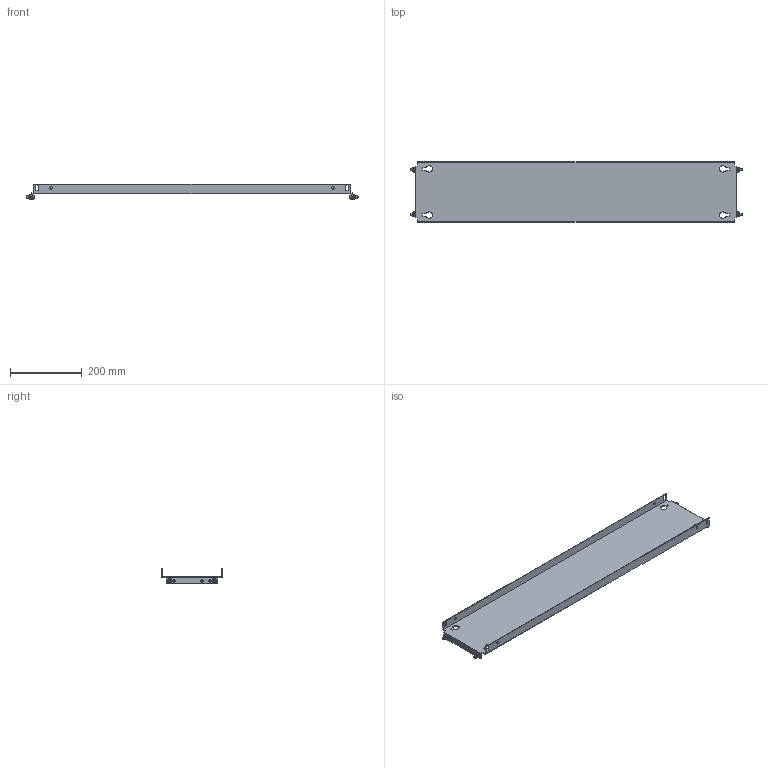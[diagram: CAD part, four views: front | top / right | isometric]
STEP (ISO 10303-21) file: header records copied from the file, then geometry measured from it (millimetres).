
FILE_DESCRIPTION(('Open CASCADE Model'),'2;1');
FILE_NAME('Open CASCADE Shape Model','2025-02-20T13:24:42',('Author'),( 'Open CASCADE'),'Open CASCADE STEP processor 7.8','Open CASCADE 7.8' ,'Unknown');
FILE_SCHEMA(('AUTOMOTIVE_DESIGN { 1 0 10303 214 1 1 1 1 }'));
Length unit declared in the file: millimetre
Products named in the file (4): Compound1; Solid1; Solid2; Solid3
Assembly tree (9 placements, depth 2):
  Compound1
    Solid1
    Solid2  x4
    Solid3  x4
Bounding box: 928 x 169 x 43 mm (x, y, z)
Volume: 400149.8 mm3; surface area: 405339.8 mm2
Topology: 9 solids, 9 shells, 308 faces, 753 edges, 467 vertices
Faces by surface type: plane 150, cone 68, bspline 48, cylinder 30, torus 12
Full cylindrical faces by diameter (mm): 5 x4, 6 x8, 7 x14
Entity records: 4930 total; most frequent: CARTESIAN_POINT 1377, ORIENTED_EDGE 756, DIRECTION 642, EDGE_CURVE 378, VERTEX_POINT 245, LINE 216, VECTOR 216, AXIS2_PLACEMENT_3D 213
